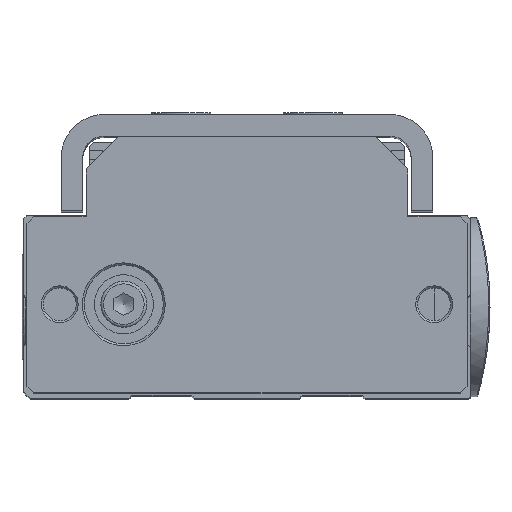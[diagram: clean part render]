
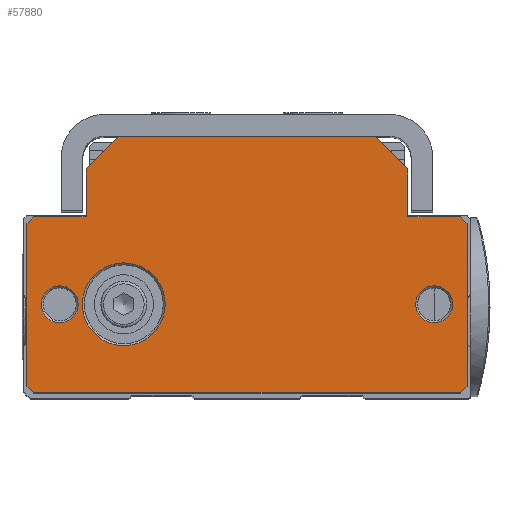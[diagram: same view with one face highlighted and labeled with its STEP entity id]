
A CAD part, top view. The second image highlights one B-rep face of the part: STEP entity #57880.
In plain terms, the highlighted planar face has unit normal (0, 0, 1).
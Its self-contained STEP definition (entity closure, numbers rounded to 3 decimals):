
#4975=FACE_BOUND('',#13791,.T.);
#4976=FACE_BOUND('',#13792,.T.);
#4977=FACE_BOUND('',#13793,.T.);
#7431=CIRCLE('',#63716,2.8);
#7432=CIRCLE('',#63717,2.8);
#7433=CIRCLE('',#63718,2.8);
#7434=CIRCLE('',#63719,2.8);
#7435=CIRCLE('',#63720,6.3);
#7436=CIRCLE('',#63721,6.3);
#10453=FACE_OUTER_BOUND('',#13790,.T.);
#13790=EDGE_LOOP('',(#51091,#51092,#51093,#51094,#51095,#51096,#51097,#51098,
#51099,#51100,#51101,#51102,#51103,#51104));
#13791=EDGE_LOOP('',(#51105,#51106));
#13792=EDGE_LOOP('',(#51107,#51108));
#13793=EDGE_LOOP('',(#51109,#51110));
#17889=LINE('',#111821,#22180);
#17891=LINE('',#111825,#22182);
#17894=LINE('',#111831,#22185);
#17895=LINE('',#111833,#22186);
#17896=LINE('',#111835,#22187);
#17897=LINE('',#111837,#22188);
#17898=LINE('',#111839,#22189);
#17899=LINE('',#111841,#22190);
#17900=LINE('',#111843,#22191);
#17901=LINE('',#111845,#22192);
#17902=LINE('',#111847,#22193);
#17903=LINE('',#111849,#22194);
#17904=LINE('',#111851,#22195);
#17905=LINE('',#111852,#22196);
#22180=VECTOR('',#77773,10.);
#22182=VECTOR('',#77777,1000.);
#22185=VECTOR('',#77782,1000.);
#22186=VECTOR('',#77783,10.);
#22187=VECTOR('',#77784,1000.);
#22188=VECTOR('',#77785,1000.);
#22189=VECTOR('',#77786,1000.);
#22190=VECTOR('',#77787,1000.);
#22191=VECTOR('',#77788,1000.);
#22192=VECTOR('',#77789,1000.);
#22193=VECTOR('',#77790,1000.);
#22194=VECTOR('',#77791,1000.);
#22195=VECTOR('',#77792,1000.);
#22196=VECTOR('',#77793,1000.);
#27682=VERTEX_POINT('',#111818);
#27683=VERTEX_POINT('',#111820);
#27684=VERTEX_POINT('',#111824);
#27686=VERTEX_POINT('',#111830);
#27687=VERTEX_POINT('',#111832);
#27688=VERTEX_POINT('',#111834);
#27689=VERTEX_POINT('',#111836);
#27690=VERTEX_POINT('',#111838);
#27691=VERTEX_POINT('',#111840);
#27692=VERTEX_POINT('',#111842);
#27693=VERTEX_POINT('',#111844);
#27694=VERTEX_POINT('',#111846);
#27695=VERTEX_POINT('',#111848);
#27696=VERTEX_POINT('',#111850);
#27697=VERTEX_POINT('',#111853);
#27698=VERTEX_POINT('',#111854);
#27699=VERTEX_POINT('',#111857);
#27700=VERTEX_POINT('',#111858);
#27701=VERTEX_POINT('',#111861);
#27702=VERTEX_POINT('',#111862);
#35633=EDGE_CURVE('',#27682,#27683,#17889,.T.);
#35635=EDGE_CURVE('',#27683,#27684,#17891,.T.);
#35638=EDGE_CURVE('',#27682,#27686,#17894,.T.);
#35639=EDGE_CURVE('',#27687,#27686,#17895,.T.);
#35640=EDGE_CURVE('',#27688,#27687,#17896,.T.);
#35641=EDGE_CURVE('',#27689,#27688,#17897,.T.);
#35642=EDGE_CURVE('',#27689,#27690,#17898,.T.);
#35643=EDGE_CURVE('',#27690,#27691,#17899,.T.);
#35644=EDGE_CURVE('',#27691,#27692,#17900,.T.);
#35645=EDGE_CURVE('',#27693,#27692,#17901,.T.);
#35646=EDGE_CURVE('',#27693,#27694,#17902,.T.);
#35647=EDGE_CURVE('',#27694,#27695,#17903,.T.);
#35648=EDGE_CURVE('',#27695,#27696,#17904,.T.);
#35649=EDGE_CURVE('',#27684,#27696,#17905,.T.);
#35650=EDGE_CURVE('',#27697,#27698,#7431,.T.);
#35651=EDGE_CURVE('',#27698,#27697,#7432,.T.);
#35652=EDGE_CURVE('',#27699,#27700,#7433,.T.);
#35653=EDGE_CURVE('',#27700,#27699,#7434,.T.);
#35654=EDGE_CURVE('',#27701,#27702,#7435,.T.);
#35655=EDGE_CURVE('',#27702,#27701,#7436,.T.);
#51091=ORIENTED_EDGE('',*,*,#35633,.F.);
#51092=ORIENTED_EDGE('',*,*,#35638,.T.);
#51093=ORIENTED_EDGE('',*,*,#35639,.F.);
#51094=ORIENTED_EDGE('',*,*,#35640,.F.);
#51095=ORIENTED_EDGE('',*,*,#35641,.F.);
#51096=ORIENTED_EDGE('',*,*,#35642,.T.);
#51097=ORIENTED_EDGE('',*,*,#35643,.T.);
#51098=ORIENTED_EDGE('',*,*,#35644,.T.);
#51099=ORIENTED_EDGE('',*,*,#35645,.F.);
#51100=ORIENTED_EDGE('',*,*,#35646,.T.);
#51101=ORIENTED_EDGE('',*,*,#35647,.T.);
#51102=ORIENTED_EDGE('',*,*,#35648,.T.);
#51103=ORIENTED_EDGE('',*,*,#35649,.F.);
#51104=ORIENTED_EDGE('',*,*,#35635,.F.);
#51105=ORIENTED_EDGE('',*,*,#35650,.T.);
#51106=ORIENTED_EDGE('',*,*,#35651,.T.);
#51107=ORIENTED_EDGE('',*,*,#35652,.T.);
#51108=ORIENTED_EDGE('',*,*,#35653,.T.);
#51109=ORIENTED_EDGE('',*,*,#35654,.T.);
#51110=ORIENTED_EDGE('',*,*,#35655,.T.);
#55050=PLANE('',#63715);
#57880=ADVANCED_FACE('',(#10453,#4975,#4976,#4977),#55050,.T.);
#63715=AXIS2_PLACEMENT_3D('',#111829,#77780,#77781);
#63716=AXIS2_PLACEMENT_3D('',#111855,#77794,#77795);
#63717=AXIS2_PLACEMENT_3D('',#111856,#77796,#77797);
#63718=AXIS2_PLACEMENT_3D('',#111859,#77798,#77799);
#63719=AXIS2_PLACEMENT_3D('',#111860,#77800,#77801);
#63720=AXIS2_PLACEMENT_3D('',#111863,#77802,#77803);
#63721=AXIS2_PLACEMENT_3D('',#111864,#77804,#77805);
#77773=DIRECTION('',(0.707,-0.707,0.));
#77777=DIRECTION('',(0.,-1.,0.));
#77780=DIRECTION('center_axis',(0.,0.,1.));
#77781=DIRECTION('ref_axis',(1.,0.,0.));
#77782=DIRECTION('',(-1.,0.,0.));
#77783=DIRECTION('',(0.707,0.707,0.));
#77784=DIRECTION('',(0.,1.,0.));
#77785=DIRECTION('',(1.,0.,0.));
#77786=DIRECTION('',(-0.707,-0.707,0.));
#77787=DIRECTION('',(0.,-1.,0.));
#77788=DIRECTION('',(0.707,-0.707,0.));
#77789=DIRECTION('',(-1.,0.,0.));
#77790=DIRECTION('',(0.707,0.707,0.));
#77791=DIRECTION('',(0.,1.,0.));
#77792=DIRECTION('',(-0.707,0.707,0.));
#77793=DIRECTION('',(1.,0.,0.));
#77794=DIRECTION('center_axis',(0.,0.,-1.));
#77795=DIRECTION('ref_axis',(1.,0.,0.));
#77796=DIRECTION('center_axis',(0.,0.,-1.));
#77797=DIRECTION('ref_axis',(1.,0.,0.));
#77798=DIRECTION('center_axis',(0.,0.,-1.));
#77799=DIRECTION('ref_axis',(1.,0.,0.));
#77800=DIRECTION('center_axis',(0.,0.,-1.));
#77801=DIRECTION('ref_axis',(1.,0.,0.));
#77802=DIRECTION('center_axis',(0.,0.,-1.));
#77803=DIRECTION('ref_axis',(1.,0.,0.));
#77804=DIRECTION('center_axis',(0.,0.,-1.));
#77805=DIRECTION('ref_axis',(1.,0.,0.));
#111818=CARTESIAN_POINT('',(19.5,19.575,0.));
#111820=CARTESIAN_POINT('',(24.5,14.575,0.));
#111821=CARTESIAN_POINT('',(20.769,18.306,0.));
#111824=CARTESIAN_POINT('',(24.5,7.275,0.));
#111825=CARTESIAN_POINT('',(24.5,20.025,0.));
#111829=CARTESIAN_POINT('Origin',(0.,0.,0.));
#111830=CARTESIAN_POINT('',(-19.5,19.575,0.));
#111831=CARTESIAN_POINT('',(-33.5,19.575,0.));
#111832=CARTESIAN_POINT('',(-24.5,14.575,0.));
#111833=CARTESIAN_POINT('',(-20.769,18.306,0.));
#111834=CARTESIAN_POINT('',(-24.5,7.275,0.));
#111835=CARTESIAN_POINT('',(-24.5,20.025,0.));
#111836=CARTESIAN_POINT('',(-32.5,7.275,0.));
#111837=CARTESIAN_POINT('',(-33.5,7.275,0.));
#111838=CARTESIAN_POINT('',(-33.5,6.275,0.));
#111839=CARTESIAN_POINT('',(-19.888,19.888,0.));
#111840=CARTESIAN_POINT('',(-33.5,-18.525,0.));
#111841=CARTESIAN_POINT('',(-33.5,20.025,0.));
#111842=CARTESIAN_POINT('',(-32.5,-19.525,0.));
#111843=CARTESIAN_POINT('',(-26.013,-26.012,0.));
#111844=CARTESIAN_POINT('',(32.5,-19.525,0.));
#111845=CARTESIAN_POINT('',(33.5,-19.525,0.));
#111846=CARTESIAN_POINT('',(33.5,-18.525,0.));
#111847=CARTESIAN_POINT('',(26.013,-26.012,0.));
#111848=CARTESIAN_POINT('',(33.5,6.275,0.));
#111849=CARTESIAN_POINT('',(33.5,20.025,0.));
#111850=CARTESIAN_POINT('',(32.5,7.275,0.));
#111851=CARTESIAN_POINT('',(19.888,19.888,0.));
#111852=CARTESIAN_POINT('',(33.5,7.275,0.));
#111853=CARTESIAN_POINT('',(31.3,-6.025,0.));
#111854=CARTESIAN_POINT('',(25.7,-6.025,0.));
#111855=CARTESIAN_POINT('Origin',(28.5,-6.025,0.));
#111856=CARTESIAN_POINT('Origin',(28.5,-6.025,0.));
#111857=CARTESIAN_POINT('',(-25.7,-6.025,0.));
#111858=CARTESIAN_POINT('',(-31.3,-6.025,0.));
#111859=CARTESIAN_POINT('Origin',(-28.5,-6.025,0.));
#111860=CARTESIAN_POINT('Origin',(-28.5,-6.025,0.));
#111861=CARTESIAN_POINT('',(-12.45,-6.025,0.));
#111862=CARTESIAN_POINT('',(-25.05,-6.025,0.));
#111863=CARTESIAN_POINT('Origin',(-18.75,-6.025,0.));
#111864=CARTESIAN_POINT('Origin',(-18.75,-6.025,0.));
